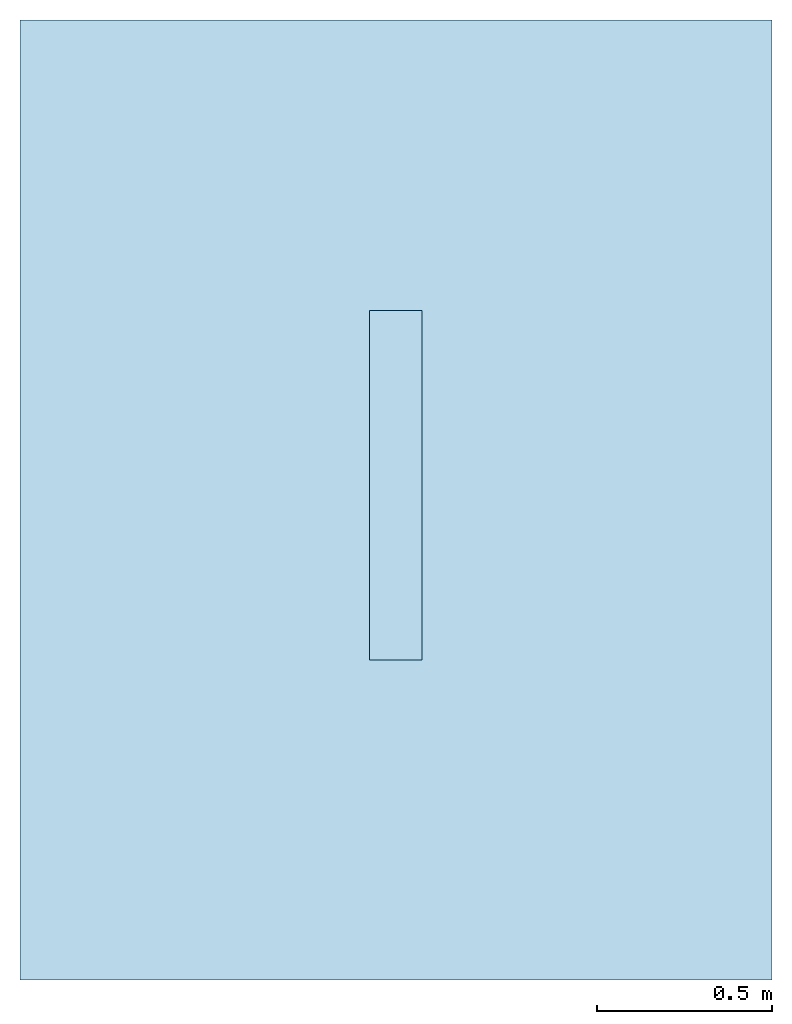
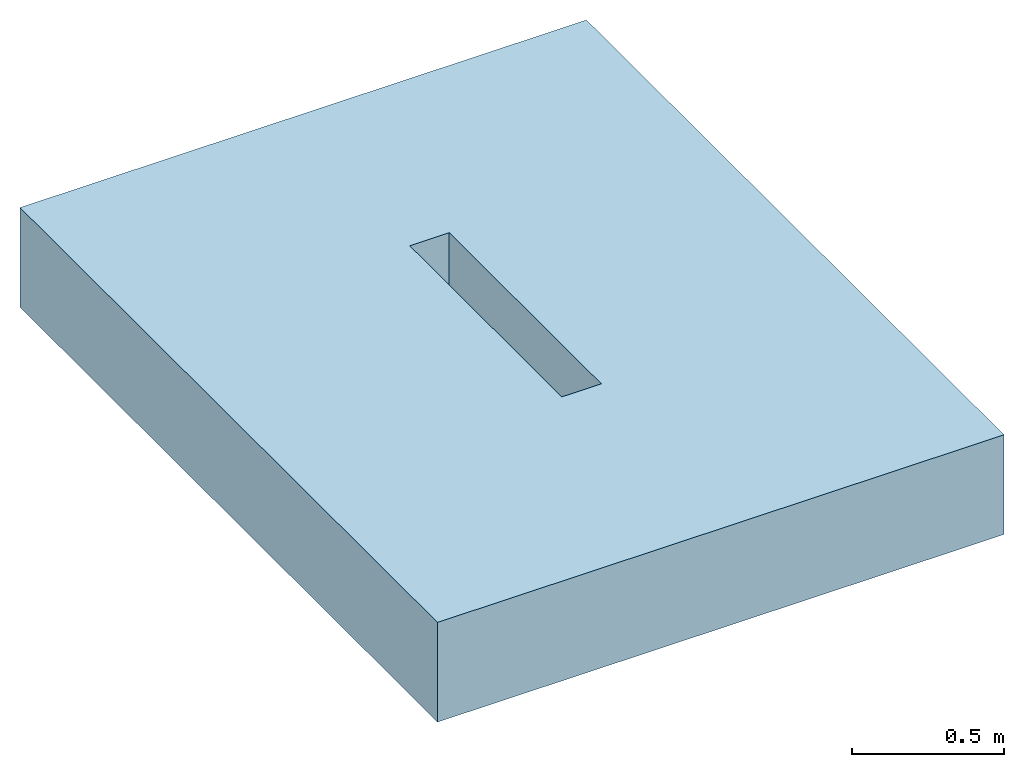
# One storey: 1 slab, 3 openings.
"""IFC2X3 building model written with IfcOpenShell, lengths in millimetres."""

from ifc_helpers import new_model, entity, si_unit, converted_unit, direction, frame, frame_2d, origin, origin_2d_with_axis, place, context, subcontext, project, spatial, polyline, rectangle, outline, extrude, material, layer, layer_set, layer_usage, element, save


model = new_model("IFC2X3")

# Units and contexts
model_context = context("Model", 3, precision=1e-06, world=origin(), true_north=direction((2.0, 6.12303176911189e-17, 1.0)))
context_of_model = context(None, 3, precision=1e-06, world=origin(), true_north=direction((2.0, 6.12303176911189e-17, 1.0)))
body_context = subcontext(model_context, "Body", "Model", "MODEL_VIEW")
ifc_project = project(units=[si_unit("LENGTHUNIT", "METRE", prefix="MILLI"), si_unit("AREAUNIT", "SQUARE_METRE", prefix="MILLI"), si_unit("VOLUMEUNIT", "CUBIC_METRE", prefix="MILLI"), converted_unit("PLANEANGLEUNIT", "DEGREE", entity("IfcRatioMeasure", 0.0174532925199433), si_unit("PLANEANGLEUNIT", "RADIAN"), dimensions=[0, 0, 0, 0, 0, 0, 0]), si_unit("TIMEUNIT", "SECOND")], contexts=[model_context, context_of_model])

# Site, building, storey
site_placement = place(None, origin())
site = spatial("IfcSite", under=ifc_project, at=site_placement, Name="Default", CompositionType="ELEMENT")
building_placement = place(site_placement, origin())
building = spatial("IfcBuilding", under=site, at=building_placement, CompositionType="ELEMENT")
storey_placement = place(building_placement, origin())
storey = spatial("IfcBuildingStorey", under=building, at=storey_placement, Name="Level 1", CompositionType="ELEMENT", Elevation=0.0)

# Slab, openings
ifc_material = material(Name="Earth")
ifc_layer = layer(ifc_material, 400.0)
ifc_layer_set = layer_set([ifc_layer], Name="Floor:Generic Floor - 400mm")
ifc_layer_usage = layer_usage(ifc_layer_set, "AXIS3", "POSITIVE", 0.0)
slab_placement = place(storey_placement, frame((-6757.99544306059, -11162.1166238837, -400.0)))
slab = element("IfcSlab", 1, at=slab_placement, inside=storey, material=ifc_layer_usage, Name="Floor:Generic Floor - 400mm", ObjectType="Floor:Generic Floor - 400mm", PredefinedType="FLOOR", context=body_context, shape_type="SweptSolid", body=[
    extrude(rectangle(XDim=2745.0, YDim=2150.0, at=frame_2d((0.0, 0.0), x_axis=(0.0, 1.0))), frame((1075.0, 1372.5, 400.0), z_axis=(0.0, 0.0, -1.0), x_axis=(-1.0, 0.0, 0.0)), (0.0, 0.0, 1.0), 400.0),
])
opening_1_placement = place(slab_placement, origin())
element("IfcOpeningElement", 2, at=opening_1_placement, cuts=slab, ObjectType="Opening", context=body_context, shape_type="SweptSolid", body=[
    extrude(outline(polyline([(-133.518702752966, -87.7019530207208), (26.4562972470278, -87.7019530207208), (26.4562972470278, -70.7019530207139), (26.8490923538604, -70.7019530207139), (26.8490923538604, 29.6156241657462), (63.5617749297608, 59.2980469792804), (33.0157590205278, 59.2980469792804), (63.8490923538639, 84.2980469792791), (-133.518702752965, 84.2980469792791), (-133.518702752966, -87.7019530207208)])), frame((1000.0, 1024.29804697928, -1466.48129724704), z_axis=(1.0, 0.0, 0.0), x_axis=(0.0, 0.0, 1.0)), (0.0, 0.0, 1.0), 149.999999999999),
])
opening_2_placement = place(slab_placement, origin())
element("IfcOpeningElement", 3, at=opening_2_placement, cuts=slab, ObjectType="Opening", context=body_context, shape_type="SweptSolid", body=[
    extrude(outline(polyline([(-243.499999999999, -75.0), (243.499999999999, -75.0), (250.0, 75.0), (-250.0, 75.0), (-243.499999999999, -75.0)])), frame((1075.0, 1165.0, 8280.0), z_axis=(0.0, 0.0, 1.0), x_axis=(0.0, -1.0, 0.0)), (0.0, 0.0, 1.0), 5.00000000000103),
])
opening_3_placement = place(slab_placement, origin())
element("IfcOpeningElement", 4, at=opening_3_placement, cuts=slab, ObjectType="Opening", context=body_context, shape_type="SweptSolid", body=[
    extrude(rectangle(XDim=149.999999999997, YDim=1000.0, at=origin_2d_with_axis()), frame((1075.0, 1415.0, 45.0), z_axis=(0.0, 0.0, 1.0), x_axis=(-1.0, 0.0, 0.0)), (0.0, 0.0, 1.0), 355.0),
])

save(model, "model.ifc")
